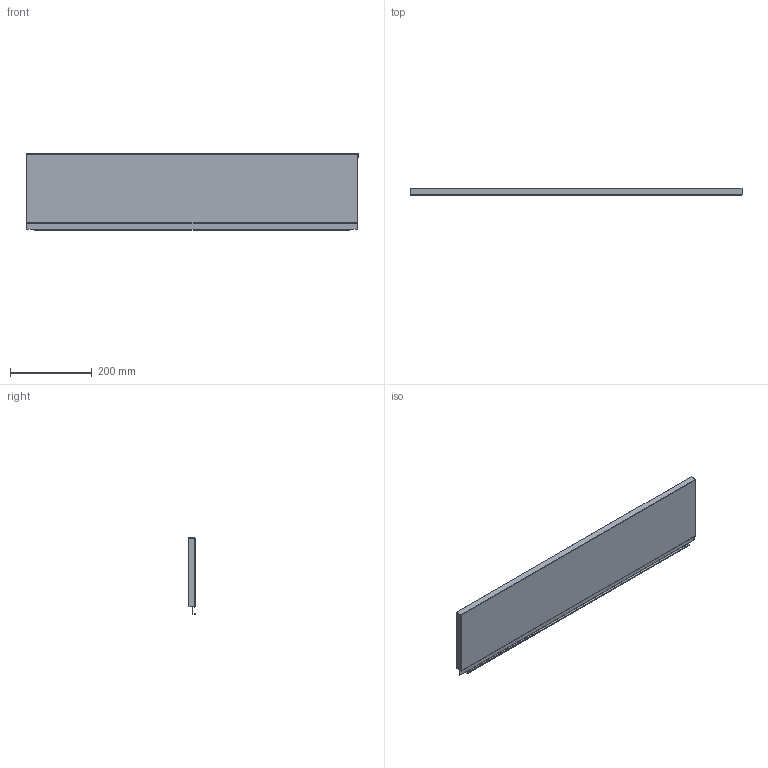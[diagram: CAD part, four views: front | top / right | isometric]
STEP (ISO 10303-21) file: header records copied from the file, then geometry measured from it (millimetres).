
FILE_DESCRIPTION (( 'STEP AP214' ), '1' );
FILE_NAME ('_STRW_H186_KAB_900.step', '2010-08-24T14:40:29', ( 'grass' ), ( '' ), 'SwSTEP 2.0', 'SolidWorks 2009', '' );
FILE_SCHEMA (( 'AUTOMOTIVE_DESIGN' ));
Length unit declared in the file: millimetre
Products named in the file (1): _STRW_H186_KAB_900
Bounding box: 810 x 17 x 186.14 mm (x, y, z)
Volume: 143144.5 mm3; surface area: 359576.7 mm2
Topology: 1 solids, 1 shells, 76 faces, 214 edges, 140 vertices
Faces by surface type: plane 54, cylinder 22
Entity records: 2472 total; most frequent: CARTESIAN_POINT 431, ORIENTED_EDGE 428, DIRECTION 412, EDGE_CURVE 214, LINE 170, VECTOR 170, VERTEX_POINT 140, AXIS2_PLACEMENT_3D 121
